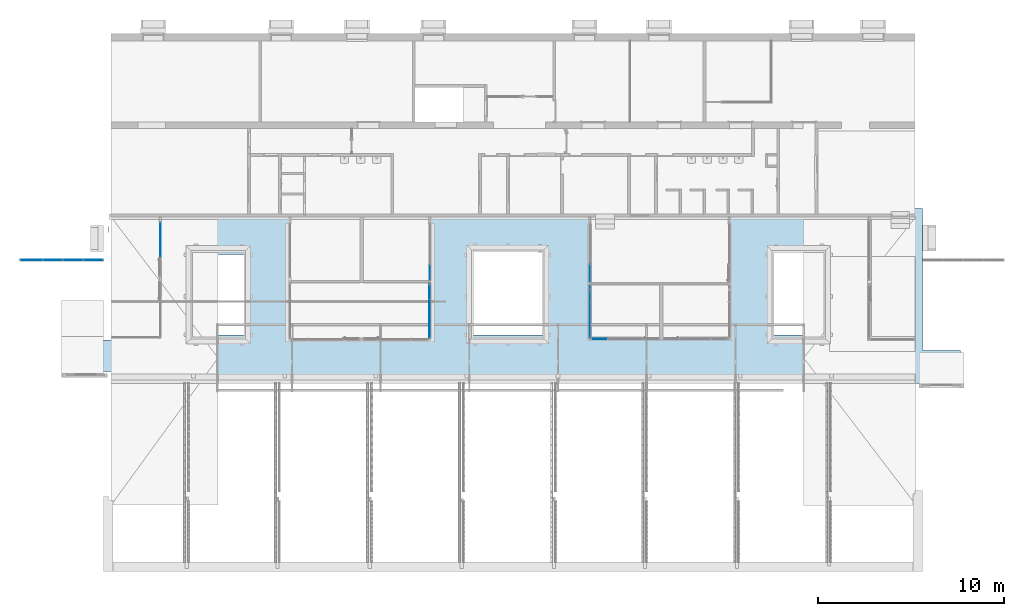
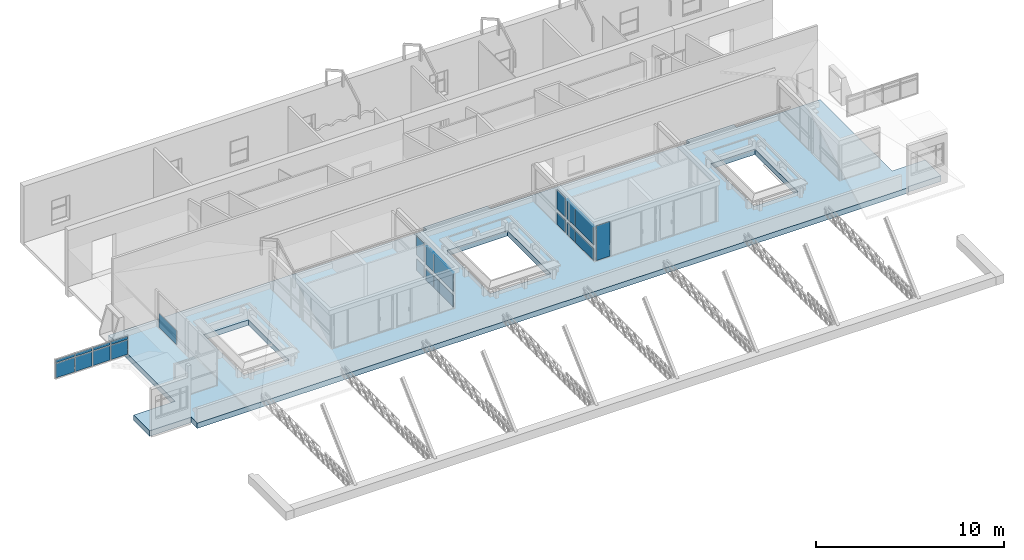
# One storey, part 103 of 153: 24 plates, 1 slab, 7 elements without a shape of their own.
"""IFC4 building model written with IfcOpenShell, lengths in metres."""

from ifc_helpers import new_model, entity, si_unit, converted_unit, derived_unit, direction, frame, origin, place, context, subcontext, project, spatial, indexed_curve, outline, extrude, source, transform, mapped, material, type_object, type_shapes, element, aggregate, save


model = new_model("IFC4")

# Units and contexts
model_context = context("Model", 3, precision=1e-05, world=origin(), true_north=direction((6.123031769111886e-17, 1.0)))
body_context = subcontext(model_context, "Body", "Model", "MODEL_VIEW")
ifc_project = project(units=[si_unit("LENGTHUNIT", "METRE"), si_unit("AREAUNIT", "SQUARE_METRE"), si_unit("VOLUMEUNIT", "CUBIC_METRE"), converted_unit("PLANEANGLEUNIT", "DEGREE", entity("IfcRatioMeasure", 0.017453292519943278), si_unit("PLANEANGLEUNIT", "RADIAN"), dimensions=[0, 0, 0, 0, 0, 0, 0]), si_unit("MASSUNIT", "GRAM", prefix="KILO"), derived_unit("MASSDENSITYUNIT", [(si_unit("MASSUNIT", "GRAM", prefix="KILO"), 1), (si_unit("LENGTHUNIT", "METRE"), -3)]), derived_unit("MOMENTOFINERTIAUNIT", [(si_unit("LENGTHUNIT", "METRE"), 4)]), si_unit("TIMEUNIT", "SECOND"), si_unit("FREQUENCYUNIT", "HERTZ"), si_unit("THERMODYNAMICTEMPERATUREUNIT", "DEGREE_CELSIUS"), derived_unit("THERMALTRANSMITTANCEUNIT", [(si_unit("MASSUNIT", "GRAM", prefix="KILO"), 1), (si_unit("THERMODYNAMICTEMPERATUREUNIT", "KELVIN"), -1), (si_unit("TIMEUNIT", "SECOND"), -3)]), derived_unit("VOLUMETRICFLOWRATEUNIT", [(si_unit("LENGTHUNIT", "METRE"), 3), (si_unit("TIMEUNIT", "SECOND"), -1)]), derived_unit("MASSFLOWRATEUNIT", [(si_unit("MASSUNIT", "GRAM", prefix="KILO"), 1), (si_unit("TIMEUNIT", "SECOND"), -1)]), derived_unit("ROTATIONALFREQUENCYUNIT", [(si_unit("TIMEUNIT", "SECOND"), -1)]), si_unit("ELECTRICCURRENTUNIT", "AMPERE"), si_unit("ELECTRICVOLTAGEUNIT", "VOLT"), si_unit("POWERUNIT", "WATT"), si_unit("FORCEUNIT", "NEWTON", prefix="KILO"), si_unit("ILLUMINANCEUNIT", "LUX"), si_unit("LUMINOUSFLUXUNIT", "LUMEN"), si_unit("LUMINOUSINTENSITYUNIT", "CANDELA"), derived_unit("USERDEFINED", [(si_unit("MASSUNIT", "GRAM", prefix="KILO"), -1), (si_unit("LENGTHUNIT", "METRE"), -2), (si_unit("TIMEUNIT", "SECOND"), 3), (si_unit("LUMINOUSFLUXUNIT", "LUMEN"), 1)]), derived_unit("SOUNDPOWERUNIT", [(si_unit("MASSUNIT", "GRAM", prefix="KILO"), 1), (si_unit("LENGTHUNIT", "METRE"), 2), (si_unit("TIMEUNIT", "SECOND"), -3)]), derived_unit("SOUNDPRESSUREUNIT", [(si_unit("MASSUNIT", "GRAM", prefix="KILO"), 1), (si_unit("LENGTHUNIT", "METRE"), -1), (si_unit("TIMEUNIT", "SECOND"), -2)]), derived_unit("LINEARVELOCITYUNIT", [(si_unit("LENGTHUNIT", "METRE"), 1), (si_unit("TIMEUNIT", "SECOND"), -1)]), si_unit("PRESSUREUNIT", "PASCAL"), derived_unit("USERDEFINED", [(si_unit("LENGTHUNIT", "METRE"), -2), (si_unit("MASSUNIT", "GRAM", prefix="KILO"), 1), (si_unit("TIMEUNIT", "SECOND"), -2)]), derived_unit("LINEARFORCEUNIT", [(si_unit("MASSUNIT", "GRAM", prefix="KILO"), 1), (si_unit("LENGTHUNIT", "METRE"), 1), (si_unit("TIMEUNIT", "SECOND"), -2), (si_unit("LENGTHUNIT", "METRE"), -1)]), derived_unit("PLANARFORCEUNIT", [(si_unit("MASSUNIT", "GRAM", prefix="KILO"), 1), (si_unit("LENGTHUNIT", "METRE"), 1), (si_unit("TIMEUNIT", "SECOND"), -2), (si_unit("LENGTHUNIT", "METRE"), -2)])], contexts=[model_context])

# Site, building, storey
site_placement = place(None, origin())
site = spatial("IfcSite", under=ifc_project, at=site_placement, Name="Superficie", CompositionType="ELEMENT")
building_placement = place(site_placement, origin())
building = spatial("IfcBuilding", under=site, at=building_placement, CompositionType="ELEMENT")
storey_placement = place(building_placement, frame((0.0, 0.0, 3.5999999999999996)))
storey = spatial("IfcBuildingStorey", under=building, at=storey_placement, Name="Nivel 1", CompositionType="ELEMENT", Elevation=3.5999999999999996)

# Slab
ifc_material_1 = material(Name="Suelos por defecto", Category="Genérico")
slab_type = type_object("IfcSlabType", Name="Suelo:Por defecto - 35 cm", PredefinedType="FLOOR", material=ifc_material_1)
slab_placement = place(storey_placement, origin())
element("IfcSlab", 1, at=slab_placement, inside=storey, type_object=slab_type, material=ifc_material_1, Name="Suelo:Por defecto - 35 cm", ObjectType="Suelo:Por defecto - 35 cm", PredefinedType="FLOOR", context=body_context, shape_type="SweptSolid", body=[
    extrude(outline(indexed_curve([(-5.3769475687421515, 19.158204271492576), (-5.3769475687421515, -24.471795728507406), (-4.7375115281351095, -24.471795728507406), (-4.7375115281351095, -27.02179572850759), (-3.037511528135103, -27.02179572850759), (-3.037511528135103, -24.471795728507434), (1.3124884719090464, -24.471795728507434), (4.023398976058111, -24.471795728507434), (4.023398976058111, -4.981795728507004), (4.333398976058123, -4.981795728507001), (4.33339897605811, -1.067042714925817), (4.023398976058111, -1.067042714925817), (4.023398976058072, 11.143204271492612), (4.333409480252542, 11.143204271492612), (4.333409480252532, 14.0182042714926), (4.023398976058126, 14.0182042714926), (4.023398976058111, 19.15820427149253), (1.3074884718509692, 19.158204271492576), (-3.5975116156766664, 19.158204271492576), (-3.5975116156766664, 21.19320427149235), (-5.297511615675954, 21.19320427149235), (-5.297511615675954, 19.158204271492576), (-5.3769475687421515, 19.158204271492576)], self_intersect=False), holes=[indexed_curve([(-2.7775115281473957, 11.168204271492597), (-2.777511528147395, 13.86320427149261), (1.7830524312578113, 13.86320427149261), (1.7830524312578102, 11.168204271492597), (-2.7775115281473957, 11.168204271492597)], self_intersect=False), indexed_curve([(1.822488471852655, -1.2867957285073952), (1.822488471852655, -4.996795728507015), (-2.777511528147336, -4.996795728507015), (-2.777511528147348, -1.2867957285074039), (1.822488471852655, -1.2867957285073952)], self_intersect=False), indexed_curve([(-2.7775115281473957, -20.091795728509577), (-2.7775115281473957, -17.326795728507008), (1.5424884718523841, -17.326795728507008), (1.5424884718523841, -20.091795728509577), (-2.7775115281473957, -20.091795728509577)], self_intersect=False)]), frame((1.8285947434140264, 2.0433408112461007, -0.3500000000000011), z_axis=(0.0, 0.0, -1.0), x_axis=(0.0, 1.0, 0.0)), (0.0, 0.0, -1.0), 0.35000000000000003),
])

# Curtain wall, plates
curtain_wall_type = type_object("IfcCurtainWallType", Name="Muro cortina:Muro cortina - simple", PredefinedType="NOTDEFINED")
curtain_wall_1_placement = place(storey_placement, frame((0.0, 0.0, -3.5999999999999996)))
curtain_wall_1 = element("IfcCurtainWall", 2, at=curtain_wall_1_placement, inside=storey, type_object=curtain_wall_type, Name="Muro cortina:Muro cortina - simple", ObjectType="Muro cortina:Muro cortina - simple", PredefinedType="NOTDEFINED")
ifc_material_2 = material(Name="Cristal", Category="Vidrio")
plate_type_1 = type_object("IfcPlateType", Name="Panel de sistema:Acristalado", PredefinedType="CURTAIN_PANEL", material=ifc_material_2)
shared_shape_1 = source(origin(), body_context, "Body", "SweptSolid", [
    extrude(outline(indexed_curve([(-0.01, -0.9474999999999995), (0.01, -0.9474999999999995), (0.01, 0.9474999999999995), (-0.01, 0.9474999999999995), (-0.01, -0.9474999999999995)], self_intersect=False)), frame((0.0, 0.0, 0.0), z_axis=(0.0, 0.0, 1.0), x_axis=(0.0, 1.0, 0.0)), (0.0, 0.0, 1.0), 0.7600000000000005),
])
type_shapes(plate_type_1, [shared_shape_1])
plate_1_placement = place(curtain_wall_1_placement, frame((3.091799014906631, 0.07458312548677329, 3.6449999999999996), z_axis=(0.0, 0.0, 1.0), x_axis=(0.0, 1.0, 0.0)))
plate_1 = element("IfcPlate", 3, at=plate_1_placement, type_object=plate_type_1, material=ifc_material_2, Name="Panel de sistema:Acristalado", ObjectType="Panel de sistema:Acristalado", PredefinedType="CURTAIN_PANEL", context=body_context, shape_type="MappedRepresentation", body=[
    mapped(shared_shape_1, transform((0.0, 0.0, 0.0), scale=1.0)),
])
plate_type_2 = type_object("IfcPlateType", Name="Panel de sistema:Acristalado", PredefinedType="CURTAIN_PANEL", material=ifc_material_2)
shared_shape_2 = source(origin(), body_context, "Body", "SweptSolid", [
    extrude(outline(indexed_curve([(-0.01, -0.9475000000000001), (0.01, -0.9475000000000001), (0.01, 0.9475000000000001), (-0.01, 0.9475000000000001), (-0.01, -0.9475000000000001)], self_intersect=False)), frame((0.0, 0.0, 0.0), z_axis=(0.0, 0.0, 1.0), x_axis=(0.0, 1.0, 0.0)), (0.0, 0.0, 1.0), 1.2249999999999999),
])
type_shapes(plate_type_2, [shared_shape_2])
plate_2_placement = place(curtain_wall_1_placement, frame((3.091799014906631, 0.07458312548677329, 4.654999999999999), z_axis=(0.0, 0.0, 1.0), x_axis=(0.0, 1.0, 0.0)))
plate_2 = element("IfcPlate", 4, at=plate_2_placement, type_object=plate_type_2, material=ifc_material_2, Name="Panel de sistema:Acristalado", ObjectType="Panel de sistema:Acristalado", PredefinedType="CURTAIN_PANEL", context=body_context, shape_type="MappedRepresentation", body=[
    mapped(shared_shape_2, transform((0.0, 0.0, 0.0), scale=1.0)),
])
plate_type_3 = type_object("IfcPlateType", Name="Panel de sistema:Acristalado", PredefinedType="CURTAIN_PANEL", material=ifc_material_2)
shared_shape_3 = source(origin(), body_context, "Body", "SweptSolid", [
    extrude(outline(indexed_curve([(-0.009999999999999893, -1.5716666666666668), (0.009999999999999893, -1.5716666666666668), (0.009999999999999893, 0.3483333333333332), (0.009999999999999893, 1.2233333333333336), (-0.009999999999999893, 1.2233333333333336), (-0.009999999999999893, 0.3483333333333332), (-0.009999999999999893, -1.5716666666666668)], self_intersect=False)), frame((0.1741666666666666, -0.01, 0.009999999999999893), z_axis=(0.0, 1.0, 0.0), x_axis=(0.0, 0.0, 1.0)), (0.0, 0.0, 1.0), 0.02),
])
type_shapes(plate_type_3, [shared_shape_3])
plate_3_placement = place(curtain_wall_1_placement, frame((3.091799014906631, 0.5245831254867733, 5.879999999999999), z_axis=(0.0, 0.0, 1.0), x_axis=(0.0, 1.0, 0.0)))
plate_3 = element("IfcPlate", 5, at=plate_3_placement, type_object=plate_type_3, material=ifc_material_2, Name="Panel de sistema:Acristalado", ObjectType="Panel de sistema:Acristalado", PredefinedType="CURTAIN_PANEL", context=body_context, shape_type="MappedRepresentation", body=[
    mapped(shared_shape_3, transform((0.0, 0.0, 0.0), scale=1.0)),
])

curtain_wall_2_placement = place(storey_placement, frame((0.0, 0.0, -3.5999999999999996)))
curtain_wall_2 = element("IfcCurtainWall", 6, at=curtain_wall_2_placement, inside=storey, type_object=curtain_wall_type, Name="Muro cortina:Muro cortina - simple", ObjectType="Muro cortina:Muro cortina - simple", PredefinedType="NOTDEFINED")
plate_type_4 = type_object("IfcPlateType", Name="Panel de sistema:Acristalado", PredefinedType="CURTAIN_PANEL", material=ifc_material_2)
shared_shape_4 = source(origin(), body_context, "Body", "SweptSolid", [
    extrude(outline(indexed_curve([(-0.01, -0.45499999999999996), (0.01, -0.45499999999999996), (0.01, 0.45499999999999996), (-0.01, 0.45499999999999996), (-0.01, -0.45499999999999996)], self_intersect=False)), frame((0.0, 0.0, 0.0), z_axis=(0.0, 0.0, 1.0), x_axis=(0.0, 1.0, 0.0)), (0.0, 0.0, 1.0), 0.7600000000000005),
])
type_shapes(plate_type_4, [shared_shape_4])
plate_4_placement = place(curtain_wall_2_placement, frame((3.0917990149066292, 2.577083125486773, 3.6449999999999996), z_axis=(0.0, 0.0, 1.0), x_axis=(0.0, 1.0, 0.0)))
plate_4 = element("IfcPlate", 7, at=plate_4_placement, type_object=plate_type_4, material=ifc_material_2, Name="Panel de sistema:Acristalado", ObjectType="Panel de sistema:Acristalado", PredefinedType="CURTAIN_PANEL", context=body_context, shape_type="MappedRepresentation", body=[
    mapped(shared_shape_4, transform((0.0, 0.0, 0.0), scale=1.0)),
])
plate_type_5 = type_object("IfcPlateType", Name="Panel de sistema:Acristalado", PredefinedType="CURTAIN_PANEL", material=ifc_material_2)
shared_shape_5 = source(origin(), body_context, "Body", "SweptSolid", [
    extrude(outline(indexed_curve([(-0.01, -0.45499999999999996), (0.01, -0.45499999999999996), (0.01, 0.45499999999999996), (-0.01, 0.45499999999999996), (-0.01, -0.45499999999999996)], self_intersect=False)), frame((0.0, 0.0, 0.0), z_axis=(0.0, 0.0, 1.0), x_axis=(0.0, 1.0, 0.0)), (0.0, 0.0, 1.0), 1.2449999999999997),
])
type_shapes(plate_type_5, [shared_shape_5])
plate_5_placement = place(curtain_wall_2_placement, frame((3.0917990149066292, 2.577083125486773, 4.654999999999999), z_axis=(0.0, 0.0, 1.0), x_axis=(0.0, 1.0, 0.0)))
plate_5 = element("IfcPlate", 8, at=plate_5_placement, type_object=plate_type_5, material=ifc_material_2, Name="Panel de sistema:Acristalado", ObjectType="Panel de sistema:Acristalado", PredefinedType="CURTAIN_PANEL", context=body_context, shape_type="MappedRepresentation", body=[
    mapped(shared_shape_5, transform((0.0, 0.0, 0.0), scale=1.0)),
])
aggregate(curtain_wall_2, [plate_4, plate_5])

# Plate
plate_type_6 = type_object("IfcPlateType", Name="Panel de sistema:Acristalado", PredefinedType="CURTAIN_PANEL", material=ifc_material_2)
shared_shape_6 = source(origin(), body_context, "Body", "SweptSolid", [
    extrude(outline(indexed_curve([(-0.01, -0.42500000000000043), (0.01, -0.42500000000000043), (0.01, 0.42500000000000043), (-0.01, 0.42500000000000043), (-0.01, -0.42500000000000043)], self_intersect=False)), frame((0.0, 0.0, 0.0), z_axis=(0.0, 0.0, 1.0), x_axis=(0.0, 1.0, 0.0)), (0.0, 0.0, 1.0), 0.7600000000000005),
])
type_shapes(plate_type_6, [shared_shape_6])
plate_6_placement = place(curtain_wall_1_placement, frame((3.091799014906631, 1.4970831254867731, 3.6449999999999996), z_axis=(0.0, 0.0, 1.0), x_axis=(0.0, 1.0, 0.0)))
plate_6 = element("IfcPlate", 9, at=plate_6_placement, type_object=plate_type_6, material=ifc_material_2, Name="Panel de sistema:Acristalado", ObjectType="Panel de sistema:Acristalado", PredefinedType="CURTAIN_PANEL", context=body_context, shape_type="MappedRepresentation", body=[
    mapped(shared_shape_6, transform((0.0, 0.0, 0.0), scale=1.0)),
])

plate_type_7 = type_object("IfcPlateType", Name="Panel de sistema:Acristalado", PredefinedType="CURTAIN_PANEL", material=ifc_material_2)
shared_shape_7 = source(origin(), body_context, "Body", "SweptSolid", [
    extrude(outline(indexed_curve([(-0.01, -0.4249999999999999), (0.01, -0.4249999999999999), (0.01, 0.4249999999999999), (-0.01, 0.4249999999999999), (-0.01, -0.4249999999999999)], self_intersect=False)), frame((0.0, 0.0, 0.0), z_axis=(0.0, 0.0, 1.0), x_axis=(0.0, 1.0, 0.0)), (0.0, 0.0, 1.0), 1.2249999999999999),
])
type_shapes(plate_type_7, [shared_shape_7])
plate_7_placement = place(curtain_wall_1_placement, frame((3.091799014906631, 1.4970831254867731, 4.654999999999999), z_axis=(0.0, 0.0, 1.0), x_axis=(0.0, 1.0, 0.0)))
plate_7 = element("IfcPlate", 10, at=plate_7_placement, type_object=plate_type_7, material=ifc_material_2, Name="Panel de sistema:Acristalado", ObjectType="Panel de sistema:Acristalado", PredefinedType="CURTAIN_PANEL", context=body_context, shape_type="MappedRepresentation", body=[
    mapped(shared_shape_7, transform((0.0, 0.0, 0.0), scale=1.0)),
])

aggregate(curtain_wall_1, [plate_1, plate_6, plate_2, plate_7, plate_3])

# Curtain wall, plate
curtain_wall_3_placement = place(storey_placement, frame((0.0, 0.0, -3.5999999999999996)))
curtain_wall_3 = element("IfcCurtainWall", 11, at=curtain_wall_3_placement, inside=storey, type_object=curtain_wall_type, Name="Muro cortina:Muro cortina - simple", ObjectType="Muro cortina:Muro cortina - simple", PredefinedType="NOTDEFINED")
plate_type_8 = type_object("IfcPlateType", Name="Panel de sistema:Acristalado", PredefinedType="CURTAIN_PANEL", material=ifc_material_2)
shared_shape_8 = source(origin(), body_context, "Body", "SweptSolid", [
    extrude(outline(indexed_curve([(-0.01, -0.4124999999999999), (0.01, -0.4124999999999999), (0.01, 0.4124999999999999), (-0.01, 0.4124999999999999), (-0.01, -0.4124999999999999)], self_intersect=False)), frame((0.0, 0.0, 0.0), z_axis=(0.0, 0.0, 1.0), x_axis=(0.0, 1.0, 0.0)), (0.0, 0.0, 1.0), 2.250000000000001),
])
type_shapes(plate_type_8, [shared_shape_8])
plate_8_placement = place(curtain_wall_3_placement, frame((3.614299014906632, -0.951756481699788, 3.6499999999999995)))
plate_8 = element("IfcPlate", 12, at=plate_8_placement, type_object=plate_type_8, material=ifc_material_2, Name="Panel de sistema:Acristalado", ObjectType="Panel de sistema:Acristalado", PredefinedType="CURTAIN_PANEL", context=body_context, shape_type="MappedRepresentation", body=[
    mapped(shared_shape_8, transform((0.0, 0.0, 0.0), scale=1.0)),
])
aggregate(curtain_wall_3, [plate_8])

# Curtain wall, plates
curtain_wall_4_placement = place(storey_placement, frame((0.0, 0.0, -3.5999999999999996)))
curtain_wall_4 = element("IfcCurtainWall", 13, at=curtain_wall_4_placement, inside=storey, type_object=curtain_wall_type, Name="Muro cortina:Muro cortina - simple", ObjectType="Muro cortina:Muro cortina - simple", PredefinedType="NOTDEFINED")
plate_type_9 = type_object("IfcPlateType", Name="Panel de sistema:Acristalado", PredefinedType="CURTAIN_PANEL", material=ifc_material_2)
shared_shape_9 = source(origin(), body_context, "Body", "SweptSolid", [
    extrude(outline(indexed_curve([(-0.01, -1.0205801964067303), (0.01, -1.0205801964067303), (0.01, 1.0205801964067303), (-0.01, 1.0205801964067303), (-0.01, -1.0205801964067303)], self_intersect=False)), frame((0.0, 0.0, 0.0), z_axis=(0.0, 0.0, 1.0), x_axis=(0.0, 1.0, 0.0)), (0.0, 0.0, 1.0), 0.7600000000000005),
])
type_shapes(plate_type_9, [shared_shape_9])
plate_9_placement = place(curtain_wall_4_placement, frame((-5.5182009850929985, 0.1358130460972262, 3.6449999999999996), z_axis=(0.0, 0.0, 1.0), x_axis=(0.0, 1.0, 0.0)))
plate_9 = element("IfcPlate", 14, at=plate_9_placement, type_object=plate_type_9, material=ifc_material_2, Name="Panel de sistema:Acristalado", ObjectType="Panel de sistema:Acristalado", PredefinedType="CURTAIN_PANEL", context=body_context, shape_type="MappedRepresentation", body=[
    mapped(shared_shape_9, transform((0.0, 0.0, 0.0), scale=1.0)),
])
plate_type_10 = type_object("IfcPlateType", Name="Panel de sistema:Acristalado", PredefinedType="CURTAIN_PANEL", material=ifc_material_2)
shared_shape_10 = source(origin(), body_context, "Body", "SweptSolid", [
    extrude(outline(indexed_curve([(-0.2616666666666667, -0.21089307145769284), (-0.2616666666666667, -0.3070534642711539), (0.4983333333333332, -0.3070534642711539), (0.4983333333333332, 0.5179465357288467), (-0.23666666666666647, 0.5179465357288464), (-0.23666666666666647, -0.21089307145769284), (-0.2616666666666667, -0.21089307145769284)], self_intersect=False)), frame((0.1054465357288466, -0.01, 0.2616666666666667), z_axis=(0.0, -1.0, 0.0), x_axis=(0.0, 0.0, 1.0)), (0.0, 0.0, -1.0), 0.02),
])
type_shapes(plate_type_10, [shared_shape_10])
plate_10_placement = place(curtain_wall_4_placement, frame((-5.5182009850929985, 1.6188932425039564, 3.619999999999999), z_axis=(0.0, 0.0, 1.0), x_axis=(0.0, 1.0, 0.0)))
plate_10 = element("IfcPlate", 15, at=plate_10_placement, type_object=plate_type_10, material=ifc_material_2, Name="Panel de sistema:Acristalado", ObjectType="Panel de sistema:Acristalado", PredefinedType="CURTAIN_PANEL", context=body_context, shape_type="MappedRepresentation", body=[
    mapped(shared_shape_10, transform((0.0, 0.0, 0.0), scale=1.0)),
])
plate_type_11 = type_object("IfcPlateType", Name="Panel de sistema:Acristalado", PredefinedType="CURTAIN_PANEL", material=ifc_material_2)
shared_shape_11 = source(origin(), body_context, "Body", "SweptSolid", [
    extrude(outline(indexed_curve([(-0.01, -1.02058019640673), (0.01, -1.02058019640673), (0.01, 1.02058019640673), (-0.01, 1.02058019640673), (-0.01, -1.02058019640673)], self_intersect=False)), frame((0.0, 0.0, 0.0), z_axis=(0.0, 0.0, 1.0), x_axis=(0.0, 1.0, 0.0)), (0.0, 0.0, 1.0), 1.2249999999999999),
])
type_shapes(plate_type_11, [shared_shape_11])
plate_11_placement = place(curtain_wall_4_placement, frame((-5.5182009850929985, 0.13581304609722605, 4.654999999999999), z_axis=(0.0, 0.0, 1.0), x_axis=(0.0, 1.0, 0.0)))
plate_11 = element("IfcPlate", 16, at=plate_11_placement, type_object=plate_type_11, material=ifc_material_2, Name="Panel de sistema:Acristalado", ObjectType="Panel de sistema:Acristalado", PredefinedType="CURTAIN_PANEL", context=body_context, shape_type="MappedRepresentation", body=[
    mapped(shared_shape_11, transform((0.0, 0.0, 0.0), scale=1.0)),
])
plate_type_12 = type_object("IfcPlateType", Name="Panel de sistema:Acristalado", PredefinedType="CURTAIN_PANEL", material=ifc_material_2)
shared_shape_12 = source(origin(), body_context, "Body", "SweptSolid", [
    extrude(outline(indexed_curve([(-0.6124999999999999, -0.5179465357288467), (0.6124999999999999, -0.5179465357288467), (0.6124999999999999, 0.21089307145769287), (0.6124999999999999, 0.3070534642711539), (-0.6124999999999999, 0.3070534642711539), (-0.6124999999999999, 0.21089307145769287), (-0.6124999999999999, -0.5179465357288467)], self_intersect=False)), frame((0.10544653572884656, -0.01, 0.6124999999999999), z_axis=(0.0, 1.0, 0.0), x_axis=(0.0, 0.0, 1.0)), (0.0, 0.0, 1.0), 0.02),
])
type_shapes(plate_type_12, [shared_shape_12])
plate_12_placement = place(curtain_wall_4_placement, frame((-5.5182009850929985, 1.6188932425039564, 4.654999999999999), z_axis=(0.0, 0.0, 1.0), x_axis=(0.0, 1.0, 0.0)))
plate_12 = element("IfcPlate", 17, at=plate_12_placement, type_object=plate_type_12, material=ifc_material_2, Name="Panel de sistema:Acristalado", ObjectType="Panel de sistema:Acristalado", PredefinedType="CURTAIN_PANEL", context=body_context, shape_type="MappedRepresentation", body=[
    mapped(shared_shape_12, transform((0.0, 0.0, 0.0), scale=1.0)),
])
plate_type_13 = type_object("IfcPlateType", Name="Panel de sistema:Acristalado", PredefinedType="CURTAIN_PANEL", material=ifc_material_2)
shared_shape_13 = source(origin(), body_context, "Body", "SweptSolid", [
    extrude(outline(indexed_curve([(-0.009999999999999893, -1.620386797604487), (0.009999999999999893, -1.620386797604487), (0.009999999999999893, 0.44577359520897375), (0.009999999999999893, 1.1746132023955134), (-0.009999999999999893, 1.1746132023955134), (-0.009999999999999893, 0.44577359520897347), (-0.009999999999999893, -1.620386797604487)], self_intersect=False)), frame((0.2228867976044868, -0.01, 0.009999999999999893), z_axis=(0.0, 1.0, 0.0), x_axis=(0.0, 0.0, 1.0)), (0.0, 0.0, 1.0), 0.02),
])
type_shapes(plate_type_13, [shared_shape_13])
plate_13_placement = place(curtain_wall_4_placement, frame((-5.5182009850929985, 0.512732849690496, 5.879999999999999), z_axis=(0.0, 0.0, 1.0), x_axis=(0.0, 1.0, 0.0)))
plate_13 = element("IfcPlate", 18, at=plate_13_placement, type_object=plate_type_13, material=ifc_material_2, Name="Panel de sistema:Acristalado", ObjectType="Panel de sistema:Acristalado", PredefinedType="CURTAIN_PANEL", context=body_context, shape_type="MappedRepresentation", body=[
    mapped(shared_shape_13, transform((0.0, 0.0, 0.0), scale=1.0)),
])
aggregate(curtain_wall_4, [plate_9, plate_10, plate_11, plate_12, plate_13])

curtain_wall_5_placement = place(storey_placement, frame((0.0, 0.0, -3.5999999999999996)))
curtain_wall_5 = element("IfcCurtainWall", 19, at=curtain_wall_5_placement, inside=storey, type_object=curtain_wall_type, Name="Muro cortina:Muro cortina - simple", ObjectType="Muro cortina:Muro cortina - simple", PredefinedType="NOTDEFINED")
plate_type_14 = type_object("IfcPlateType", Name="Panel de sistema:Acristalado", PredefinedType="CURTAIN_PANEL", material=ifc_material_2)
shared_shape_14 = source(origin(), body_context, "Body", "SweptSolid", [
    extrude(outline(indexed_curve([(-0.01, -0.38941980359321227), (0.01, -0.38941980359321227), (0.01, 0.38941980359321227), (-0.01, 0.38941980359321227), (-0.01, -0.38941980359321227)], self_intersect=False)), frame((0.0, 0.0, 0.0), z_axis=(0.0, 0.0, 1.0), x_axis=(0.0, 1.0, 0.0)), (0.0, 0.0, 1.0), 0.7600000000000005),
])
type_shapes(plate_type_14, [shared_shape_14])
plate_14_placement = place(curtain_wall_5_placement, frame((-5.513200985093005, 2.63081304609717, 3.6449999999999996), z_axis=(0.0, 0.0, 1.0), x_axis=(0.0, 1.0, 0.0)))
plate_14 = element("IfcPlate", 20, at=plate_14_placement, type_object=plate_type_14, material=ifc_material_2, Name="Panel de sistema:Acristalado", ObjectType="Panel de sistema:Acristalado", PredefinedType="CURTAIN_PANEL", context=body_context, shape_type="MappedRepresentation", body=[
    mapped(shared_shape_14, transform((0.0, 0.0, 0.0), scale=1.0)),
])
plate_type_15 = type_object("IfcPlateType", Name="Panel de sistema:Acristalado", PredefinedType="CURTAIN_PANEL", material=ifc_material_2)
shared_shape_15 = source(origin(), body_context, "Body", "SweptSolid", [
    extrude(outline(indexed_curve([(-0.01, -0.38941980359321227), (0.01, -0.38941980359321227), (0.01, 0.38941980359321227), (-0.01, 0.38941980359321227), (-0.01, -0.38941980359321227)], self_intersect=False)), frame((0.0, 0.0, 0.0), z_axis=(0.0, 0.0, 1.0), x_axis=(0.0, 1.0, 0.0)), (0.0, 0.0, 1.0), 1.2449999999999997),
])
type_shapes(plate_type_15, [shared_shape_15])
plate_15_placement = place(curtain_wall_5_placement, frame((-5.513200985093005, 2.63081304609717, 4.654999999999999), z_axis=(0.0, 0.0, 1.0), x_axis=(0.0, 1.0, 0.0)))
plate_15 = element("IfcPlate", 21, at=plate_15_placement, type_object=plate_type_15, material=ifc_material_2, Name="Panel de sistema:Acristalado", ObjectType="Panel de sistema:Acristalado", PredefinedType="CURTAIN_PANEL", context=body_context, shape_type="MappedRepresentation", body=[
    mapped(shared_shape_15, transform((0.0, 0.0, 0.0), scale=1.0)),
])
aggregate(curtain_wall_5, [plate_14, plate_15])

# Curtain wall, plate
curtain_wall_6_placement = place(storey_placement, frame((0.0, 0.0, -3.5999999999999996)))
curtain_wall_6 = element("IfcCurtainWall", 22, at=curtain_wall_6_placement, inside=storey, type_object=curtain_wall_type, Name="Muro cortina:Muro cortina - simple", ObjectType="Muro cortina:Muro cortina - simple", PredefinedType="NOTDEFINED")
plate_type_16 = type_object("IfcPlateType", Name="Panel de sistema:Acristalado", PredefinedType="CURTAIN_PANEL", material=ifc_material_2)
shared_shape_16 = source(origin(), body_context, "Body", "SweptSolid", [
    extrude(outline(indexed_curve([(-0.01, -0.9375000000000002), (0.01, -0.9375000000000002), (0.01, 0.9375000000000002), (-0.01, 0.9375000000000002), (-0.01, -0.9375000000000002)], self_intersect=False)), frame((0.0, 0.0, 0.0), z_axis=(0.0, 0.0, 1.0), x_axis=(0.0, 1.0, 0.0)), (0.0, 0.0, 1.0), 0.9249999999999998),
])
type_shapes(plate_type_16, [shared_shape_16])
plate_16_placement = place(curtain_wall_6_placement, frame((-19.99320098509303, 4.379583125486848, 3.6499999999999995), z_axis=(0.0, 0.0, 1.0), x_axis=(0.0, -1.0, 0.0)))
plate_16 = element("IfcPlate", 23, at=plate_16_placement, type_object=plate_type_16, material=ifc_material_2, Name="Panel de sistema:Acristalado", ObjectType="Panel de sistema:Acristalado", PredefinedType="CURTAIN_PANEL", context=body_context, shape_type="MappedRepresentation", body=[
    mapped(shared_shape_16, transform((0.0, 0.0, 0.0), scale=1.0)),
])
aggregate(curtain_wall_6, [plate_16])

# Curtain wall, plates
curtain_wall_7_placement = place(storey_placement, frame((0.0, 0.0, -3.5999999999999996)))
curtain_wall_7 = element("IfcCurtainWall", 24, at=curtain_wall_7_placement, inside=storey, type_object=curtain_wall_type, Name="Muro cortina:Muro cortina - simple", ObjectType="Muro cortina:Muro cortina - simple", PredefinedType="NOTDEFINED")
plate_type_17 = type_object("IfcPlateType", Name="Panel de sistema:Acristalado", PredefinedType="CURTAIN_PANEL", material=ifc_material_2)
shared_shape_17 = source(origin(), body_context, "Body", "SweptSolid", [
    extrude(outline(indexed_curve([(-0.01, -0.5091109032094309), (0.01, -0.5091109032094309), (0.01, 0.5091109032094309), (-0.01, 0.5091109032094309), (-0.01, -0.5091109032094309)], self_intersect=False)), frame((0.0, 0.0, 0.0), z_axis=(0.0, 0.0, 1.0), x_axis=(0.0, 1.0, 0.0)), (0.0, 0.0, 1.0), 0.9357145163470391),
])
type_shapes(plate_type_17, [shared_shape_17])
plate_17_placement = place(curtain_wall_7_placement, frame((-23.610774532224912, 3.290829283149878, 4.21)))
plate_17 = element("IfcPlate", 25, at=plate_17_placement, type_object=plate_type_17, material=ifc_material_2, Name="Panel de sistema:Acristalado", ObjectType="Panel de sistema:Acristalado", PredefinedType="CURTAIN_PANEL", context=body_context, shape_type="MappedRepresentation", body=[
    mapped(shared_shape_17, transform((0.0, 0.0, 0.0), scale=1.0)),
])
plate_type_18 = type_object("IfcPlateType", Name="Panel de sistema:Acristalado", PredefinedType="CURTAIN_PANEL", material=ifc_material_2)
shared_shape_18 = source(origin(), body_context, "Body", "SweptSolid", [
    extrude(outline(indexed_curve([(-0.01, -0.5216109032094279), (0.01, -0.5216109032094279), (0.01, 0.5216109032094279), (-0.01, 0.5216109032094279), (-0.01, -0.5216109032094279)], self_intersect=False)), frame((0.0, 0.0, 0.0), z_axis=(0.0, 0.0, 1.0), x_axis=(0.0, 1.0, 0.0)), (0.0, 0.0, 1.0), 0.9357145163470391),
])
type_shapes(plate_type_18, [shared_shape_18])
plate_18_placement = place(curtain_wall_7_placement, frame((-25.78471814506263, 3.2908292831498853, 4.21)))
plate_18 = element("IfcPlate", 26, at=plate_18_placement, type_object=plate_type_18, material=ifc_material_2, Name="Panel de sistema:Acristalado", ObjectType="Panel de sistema:Acristalado", PredefinedType="CURTAIN_PANEL", context=body_context, shape_type="MappedRepresentation", body=[
    mapped(shared_shape_18, transform((0.0, 0.0, 0.0), scale=1.0)),
])
plate_19_placement = place(curtain_wall_7_placement, frame((-24.691496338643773, 3.290829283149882, 4.21)))
plate_19 = element("IfcPlate", 27, at=plate_19_placement, type_object=plate_type_18, material=ifc_material_2, Name="Panel de sistema:Acristalado", ObjectType="Panel de sistema:Acristalado", PredefinedType="CURTAIN_PANEL", context=body_context, shape_type="MappedRepresentation", body=[
    mapped(shared_shape_18, transform((0.0, 0.0, 0.0), scale=1.0)),
])
plate_type_19 = type_object("IfcPlateType", Name="Panel de sistema:Acristalado", PredefinedType="CURTAIN_PANEL", material=ifc_material_2)
shared_shape_19 = source(origin(), body_context, "Body", "SweptSolid", [
    extrude(outline(indexed_curve([(-0.01, -0.5684359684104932), (0.01, -0.5684359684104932), (0.01, 0.5684359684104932), (-0.01, 0.5684359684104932), (-0.01, -0.5684359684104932)], self_intersect=False)), frame((0.0, 0.0, 0.0), z_axis=(0.0, 0.0, 1.0), x_axis=(0.0, 1.0, 0.0)), (0.0, 0.0, 1.0), 0.9357145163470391),
])
type_shapes(plate_type_19, [shared_shape_19])
plate_20_placement = place(curtain_wall_7_placement, frame((-26.924765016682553, 3.2908292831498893, 4.21)))
plate_20 = element("IfcPlate", 28, at=plate_20_placement, type_object=plate_type_19, material=ifc_material_2, Name="Panel de sistema:Acristalado", ObjectType="Panel de sistema:Acristalado", PredefinedType="CURTAIN_PANEL", context=body_context, shape_type="MappedRepresentation", body=[
    mapped(shared_shape_19, transform((0.0, 0.0, 0.0), scale=1.0)),
])
plate_type_20 = type_object("IfcPlateType", Name="Panel de sistema:Acristalado", PredefinedType="CURTAIN_PANEL", material=ifc_material_2)
shared_shape_20 = source(origin(), body_context, "Body", "SweptSolid", [
    extrude(outline(indexed_curve([(-0.01, -0.5684359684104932), (0.01, -0.5684359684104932), (0.01, 0.5684359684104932), (-0.01, 0.5684359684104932), (-0.01, -0.5684359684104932)], self_intersect=False)), frame((0.0, 0.0, 0.0), z_axis=(0.0, 0.0, 1.0), x_axis=(0.0, 1.0, 0.0)), (0.0, 0.0, 1.0), 0.18428548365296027),
])
type_shapes(plate_type_20, [shared_shape_20])
plate_21_placement = place(curtain_wall_7_placement, frame((-26.924765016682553, 3.2908292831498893, 5.195714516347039)))
plate_21 = element("IfcPlate", 29, at=plate_21_placement, type_object=plate_type_20, material=ifc_material_2, Name="Panel de sistema:Acristalado", ObjectType="Panel de sistema:Acristalado", PredefinedType="CURTAIN_PANEL", context=body_context, shape_type="MappedRepresentation", body=[
    mapped(shared_shape_20, transform((0.0, 0.0, 0.0), scale=1.0)),
])
plate_type_21 = type_object("IfcPlateType", Name="Panel de sistema:Acristalado", PredefinedType="CURTAIN_PANEL", material=ifc_material_2)
shared_shape_21 = source(origin(), body_context, "Body", "SweptSolid", [
    extrude(outline(indexed_curve([(-0.01, -0.5216109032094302), (0.01, -0.5216109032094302), (0.01, 0.5216109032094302), (-0.01, 0.5216109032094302), (-0.01, -0.5216109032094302)], self_intersect=False)), frame((0.0, 0.0, 0.0), z_axis=(0.0, 0.0, 1.0), x_axis=(0.0, 1.0, 0.0)), (0.0, 0.0, 1.0), 0.18428548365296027),
])
type_shapes(plate_type_21, [shared_shape_21])
plate_22_placement = place(curtain_wall_7_placement, frame((-25.78471814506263, 3.2908292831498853, 5.195714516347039)))
plate_22 = element("IfcPlate", 30, at=plate_22_placement, type_object=plate_type_21, material=ifc_material_2, Name="Panel de sistema:Acristalado", ObjectType="Panel de sistema:Acristalado", PredefinedType="CURTAIN_PANEL", context=body_context, shape_type="MappedRepresentation", body=[
    mapped(shared_shape_21, transform((0.0, 0.0, 0.0), scale=1.0)),
])
plate_23_placement = place(curtain_wall_7_placement, frame((-24.691496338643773, 3.290829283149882, 5.195714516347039)))
plate_23 = element("IfcPlate", 31, at=plate_23_placement, type_object=plate_type_21, material=ifc_material_2, Name="Panel de sistema:Acristalado", ObjectType="Panel de sistema:Acristalado", PredefinedType="CURTAIN_PANEL", context=body_context, shape_type="MappedRepresentation", body=[
    mapped(shared_shape_21, transform((0.0, 0.0, 0.0), scale=1.0)),
])
plate_type_22 = type_object("IfcPlateType", Name="Panel de sistema:Acristalado", PredefinedType="CURTAIN_PANEL", material=ifc_material_2)
shared_shape_22 = source(origin(), body_context, "Body", "SweptSolid", [
    extrude(outline(indexed_curve([(-0.01, -0.5091109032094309), (0.01, -0.5091109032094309), (0.01, 0.5091109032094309), (-0.01, 0.5091109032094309), (-0.01, -0.5091109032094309)], self_intersect=False)), frame((0.0, 0.0, 0.0), z_axis=(0.0, 0.0, 1.0), x_axis=(0.0, 1.0, 0.0)), (0.0, 0.0, 1.0), 0.18428548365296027),
])
type_shapes(plate_type_22, [shared_shape_22])
plate_24_placement = place(curtain_wall_7_placement, frame((-23.610774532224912, 3.290829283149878, 5.195714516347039)))
plate_24 = element("IfcPlate", 32, at=plate_24_placement, type_object=plate_type_22, material=ifc_material_2, Name="Panel de sistema:Acristalado", ObjectType="Panel de sistema:Acristalado", PredefinedType="CURTAIN_PANEL", context=body_context, shape_type="MappedRepresentation", body=[
    mapped(shared_shape_22, transform((0.0, 0.0, 0.0), scale=1.0)),
])
aggregate(curtain_wall_7, [plate_20, plate_18, plate_19, plate_17, plate_21, plate_22, plate_23, plate_24])

save(model, "model.ifc")
